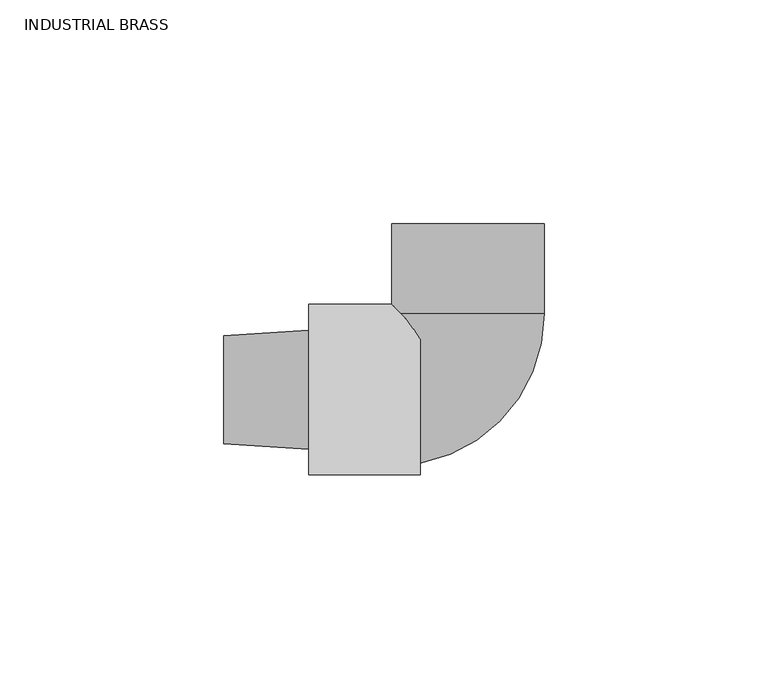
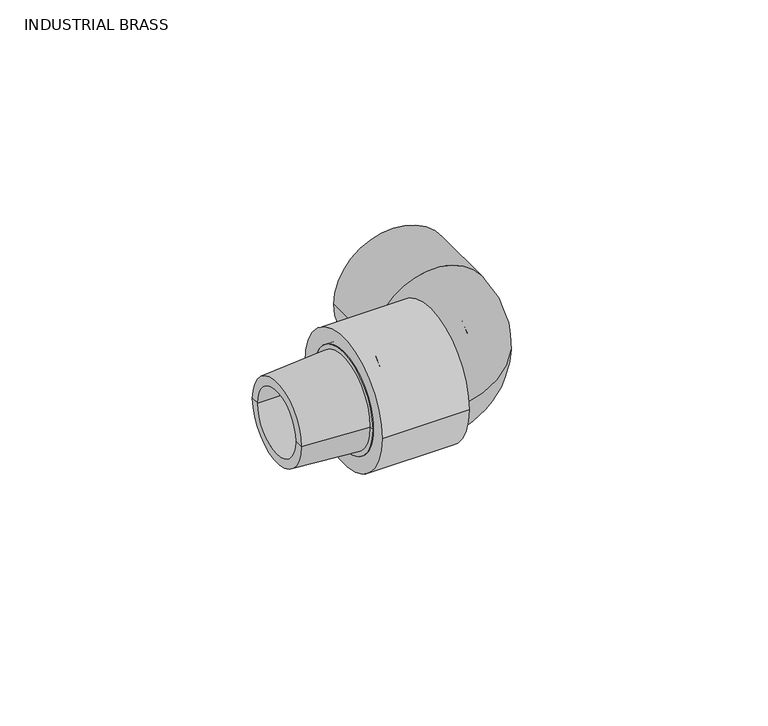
"""IFC4 building model written with IfcOpenShell, lengths in millimetres: valve geometry, Aquatherm - Elbow Transition PPR to M NPT : INDUSTRIAL BRASS."""

from ifc_helpers import new_model, si_unit, point, frame, origin, origin_2d, place, context, project, spatial, polyline, circle_curve, ellipse_curve, trimmed, segment, composite_curve, outline, extrude, source, transform, mapped, element, save
from ifc_brep_helpers import plane_surface, cylinder_surface, revolved_surface, advanced_brep


def industrial_brass_7a433c09(model_context):
    return source(origin(), model_context, "Body", "SolidModel", [
        advanced_brep(
        [(-16.51, -9.525, 0.0), (-16.51, 9.525, 0.0), (-54.61, 9.525, 0.0), (-54.61, -9.525, 0.0), (-16.51, -14.5851563, 0.0), (-16.51, 14.5851562, 0.0), (-35.56, -14.5851563, 0.0), (-35.56, 14.5851562, 0.0), (-54.61, 12.0943357, 0.0), (-54.61, -12.0943357, 0.0), (-35.56, -13.3100212, 0.0), (-35.56, 13.3100212, 0.0)],
        [
            (0, 1, circle_curve(frame((-16.51, 0.0, 0.0), z_axis=(1.0, 0.0, 0.0), x_axis=(0.0, 1.0, 0.0)), 9.525)),
            (1, 2),
            (2, 3, circle_curve(frame((-54.61, 0.0, 0.0), z_axis=(-1.0, 0.0, 0.0), x_axis=(0.0, 1.0, 0.0)), 9.525)),
            (3, 0),
            (1, 0, circle_curve(frame((-16.51, 0.0, 0.0), z_axis=(1.0, 0.0, 0.0), x_axis=(0.0, 1.0, 0.0)), 9.525)),
            (3, 2, circle_curve(frame((-54.61, 0.0, 0.0), z_axis=(-1.0, 0.0, 0.0), x_axis=(0.0, 1.0, 0.0)), 9.525)),
            (4, 5, circle_curve(frame((-16.51, 0.0, 0.0), z_axis=(1.0, 0.0, 0.0), x_axis=(0.0, 1.0, 0.0)), 14.5851563)),
            (5, 1),
            (0, 4),
            (5, 4, circle_curve(frame((-16.51, 0.0, 0.0), z_axis=(1.0, 0.0, 0.0), x_axis=(0.0, 1.0, 0.0)), 14.5851563)),
            (6, 7, circle_curve(frame((-35.56, 0.0, 0.0), z_axis=(1.0, 0.0, 0.0), x_axis=(0.0, 1.0, 0.0)), 14.5851563)),
            (7, 5),
            (4, 6),
            (7, 6, circle_curve(frame((-35.56, 0.0, 0.0), z_axis=(1.0, 0.0, 0.0), x_axis=(0.0, 1.0, 0.0)), 14.5851563)),
            (2, 8),
            (8, 9, circle_curve(frame((-54.61, 0.0, 0.0), z_axis=(-1.0, 0.0, 0.0), x_axis=(0.0, 1.0, 0.0)), 12.0943357)),
            (9, 3),
            (9, 8, circle_curve(frame((-54.61, 0.0, 0.0), z_axis=(-1.0, 0.0, 0.0), x_axis=(0.0, 1.0, 0.0)), 12.0943357)),
            (10, 11, circle_curve(frame((-35.56, 0.0, 0.0), z_axis=(1.0, 0.0, 0.0), x_axis=(0.0, 1.0, 0.0)), 13.3100212)),
            (11, 7),
            (6, 10),
            (11, 10, circle_curve(frame((-35.56, 0.0, 0.0), z_axis=(1.0, 0.0, 0.0), x_axis=(0.0, 1.0, 0.0)), 13.3100212)),
            (8, 11),
            (10, 9),
        ],
        [
            revolved_surface(polyline([(-54.61, 9.525, 0.0), (-16.509999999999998, 9.525, 0.0)]), (-56.4432251, 0.0, 0.0), (-1.0, 0.0, 0.0)),
            plane_surface(frame((-16.51, 0.0, 0.0), z_axis=(1.0, 0.0, 0.0), x_axis=(0.0, 1.0, 0.0))),
            cylinder_surface(frame((-56.4432251, 0.0, 0.0), z_axis=(-1.0, 0.0, 0.0), x_axis=(0.0, 1.0, 0.0)), 14.5851563),
            plane_surface(frame((-54.61, 0.0, 0.0), z_axis=(-1.0, 0.0, 0.0), x_axis=(0.0, 1.0, 0.0))),
            plane_surface(frame((-35.56, 0.0, 0.0), z_axis=(-1.0, 0.0, 0.0), x_axis=(0.0, 1.0, 0.0))),
            revolved_surface(polyline([(-35.56, 13.3100212, 0.0), (-54.61, 12.0943357, 0.0)]), (-56.4432251, 0.0, 0.0), (-1.0, 0.0, 0.0)),
        ],
        [
            (0, [[1, 2, 3, 4]]),
            (0, [[5, -4, 6, -2]]),
            (1, [[7, 8, -1, 9]]),
            (1, [[10, -9, -5, -8]]),
            (2, [[11, 12, -7, 13]]),
            (2, [[14, -13, -10, -12]]),
            (3, [[-3, 15, 16, 17]]),
            (3, [[-6, -17, 18, -15]]),
            (4, [[19, 20, -11, 21]]),
            (4, [[22, -21, -14, -20]]),
            (5, [[-16, 23, -19, 24]]),
            (5, [[-18, -24, -22, -23]]),
        ],
    ),
        advanced_brep(
        [(17.018, 17.018, 0.0), (-17.018, 17.018, 0.0), (6.35, 17.018, 0.0), (-6.35, 17.018, 0.0), (-17.018, -17.018, 0.0), (-17.018, -6.35, 0.0), (-17.018, 6.35, 0.0)],
        [
            (0, 1, circle_curve(frame((0.0, 17.018, 0.0), z_axis=(0.0, 1.0, 0.0), x_axis=(-1.0, 0.0, 0.0)), 17.018)),
            (1, 0, circle_curve(frame((0.0, 17.018, 0.0), z_axis=(0.0, 1.0, 0.0), x_axis=(-1.0, 0.0, 0.0)), 17.018)),
            (2, 3, circle_curve(frame((0.0, 17.018, 0.0), z_axis=(0.0, -1.0, 0.0), x_axis=(-1.0, 0.0, 0.0)), 6.35)),
            (3, 2, circle_curve(frame((0.0, 17.018, 0.0), z_axis=(0.0, -1.0, 0.0), x_axis=(-1.0, 0.0, 0.0)), 6.35)),
            (4, 1, circle_curve(frame((-17.018, 0.0, 0.0), z_axis=(-1.0, 0.0, 0.0), x_axis=(0.0, 1.0, 0.0)), 17.018)),
            (1, 4, circle_curve(frame((-17.018, 0.0, 0.0), z_axis=(-1.0, 0.0, 0.0), x_axis=(0.0, 1.0, 0.0)), 17.018)),
            (5, 6, circle_curve(frame((-17.018, 0.0, 0.0), z_axis=(1.0, 0.0, 0.0), x_axis=(0.0, 1.0, 0.0)), 6.35)),
            (6, 5, circle_curve(frame((-17.018, 0.0, 0.0), z_axis=(1.0, 0.0, 0.0), x_axis=(0.0, 1.0, 0.0)), 6.35)),
            (0, 4, circle_curve(frame((-17.018, 17.018, 0.0), z_axis=(0.0, 0.0, -1.0), x_axis=(1.0, 0.0, 0.0)), 34.036)),
            (6, 3, circle_curve(frame((-17.018, 17.018, 0.0), z_axis=(0.0, 0.0, 1.0), x_axis=(1.0, 0.0, 0.0)), 10.668)),
            (2, 5, circle_curve(frame((-17.018, 17.018, 0.0), z_axis=(0.0, 0.0, -1.0), x_axis=(1.0, 0.0, 0.0)), 23.368)),
        ],
        [
            plane_surface(frame((-17.018, 17.018, 41.9103543), z_axis=(0.0, 1.0, 0.0), x_axis=(1.0, 0.0, 0.0))),
            plane_surface(frame((-17.018, 17.018, 41.9103543), z_axis=(-1.0, 0.0, 0.0), x_axis=(0.0, -1.0, 0.0))),
            revolved_surface(trimmed(ellipse_curve(frame((0.0, 17.018, 0.0), z_axis=(0.0, 1.0, 0.0), x_axis=(-1.0, 0.0, 0.0)), 17.018, 17.018), [point((17.018, 17.018, 0.0))], [point((-17.018, 17.018, 0.0))], True, "CARTESIAN"), (-17.018, 17.018, 41.9103543), (0.0, 0.0, -1.0)),
            revolved_surface(trimmed(ellipse_curve(frame((0.0, 17.018, 0.0), z_axis=(0.0, 1.0, 0.0), x_axis=(-1.0, 0.0, 0.0)), 17.018, 17.018), [point((-17.018, 17.018, 0.0))], [point((17.018, 17.018, 0.0))], True, "CARTESIAN"), (-17.018, 17.018, 41.9103543), (0.0, 0.0, -1.0)),
            revolved_surface(trimmed(ellipse_curve(frame((0.0, 17.018, 0.0), z_axis=(0.0, -1.0, 0.0), x_axis=(-1.0, 0.0, 0.0)), 6.35, 6.35), [point((6.35, 17.018, 0.0))], [point((-6.35, 17.018, 0.0))], True, "CARTESIAN"), (-17.018, 17.018, 41.9103543), (0.0, 0.0, -1.0)),
            revolved_surface(trimmed(ellipse_curve(frame((0.0, 17.018, 0.0), z_axis=(0.0, -1.0, 0.0), x_axis=(-1.0, 0.0, 0.0)), 6.35, 6.35), [point((-6.35, 17.018, 0.0))], [point((6.35, 17.018, 0.0))], True, "CARTESIAN"), (-17.018, 17.018, 41.9103543), (0.0, 0.0, -1.0)),
        ],
        [
            (0, [[1, 2], [3, 4]]),
            (1, [[5, 6], [7, 8]]),
            (2, [[-1, 9, -6]]),
            (3, [[-9, -2, -5]]),
            (4, [[10, -3, 11, -8]]),
            (5, [[-11, -4, -10, -7]]),
        ],
    ),
        extrude(outline(composite_curve([segment(trimmed(circle_curve(origin_2d(), 17.018), [point((0.0, 17.018))], [point((0.0, -17.018))], False, "CARTESIAN"), True, "CONTINUOUS"), segment(trimmed(circle_curve(origin_2d(), 17.018), [point((0.0, -17.018))], [point((0.0, 17.018))], False, "CARTESIAN"), True, "CONTINUOUS")], self_intersect=False), holes=[composite_curve([segment(trimmed(circle_curve(origin_2d(), 10.033), [point((0.0, 10.033))], [point((0.0, -10.033))], True, "CARTESIAN"), True, "CONTINUOUS"), segment(trimmed(circle_curve(origin_2d(), 10.033), [point((0.0, -10.033))], [point((0.0, 10.033))], True, "CARTESIAN"), True, "CONTINUOUS")], self_intersect=False)]), frame((0.0, 17.018, 0.0), z_axis=(0.0, 1.0, 0.0), x_axis=(0.0, 0.0, 1.0)), (0.0, 0.0, 1.0), 20.066),
        extrude(outline(composite_curve([segment(trimmed(circle_curve(origin_2d(), 19.05), [point((-19.05, 0.0))], [point((19.05, 0.0))], False, "CARTESIAN"), True, "CONTINUOUS"), segment(trimmed(circle_curve(origin_2d(), 19.05), [point((19.05, 0.0))], [point((-19.05, 0.0))], False, "CARTESIAN"), True, "CONTINUOUS")], self_intersect=False), holes=[composite_curve([segment(trimmed(circle_curve(origin_2d(), 14.605), [point((-14.605, 0.0))], [point((14.605, 0.0))], True, "CARTESIAN"), True, "CONTINUOUS"), segment(trimmed(circle_curve(origin_2d(), 14.605), [point((14.605, 0.0))], [point((-14.605, 0.0))], True, "CARTESIAN"), True, "CONTINUOUS")], self_intersect=False)]), frame((-35.56, 0.0, 0.0), z_axis=(1.0, 0.0, 0.0), x_axis=(0.0, 1.0, 0.0)), (0.0, 0.0, 1.0), 24.892),
    ])


if __name__ == "__main__":
    model = new_model("IFC4")
    model_context = context("Model", 3, world=origin())
    ifc_project = project(units=[si_unit("LENGTHUNIT", "METRE", prefix="MILLI")], contexts=[model_context])
    site = spatial("IfcSite", under=ifc_project)
    building = spatial("IfcBuilding", under=site)
    placement = place(None, origin())
    industrial_brass_shape = industrial_brass_7a433c09(model_context)
    element("IfcValve", 1, ObjectType="Aquatherm - Elbow Transition PPR to M NPT : INDUSTRIAL BRASS", at=placement, inside=building, context=model_context, shape_type="MappedRepresentation", body=[
        mapped(industrial_brass_shape, transform((0.0, 0.0, 0.0), x_axis=(1.0, 0.0, 0.0), y_axis=(0.0, 1.0, 0.0), z_axis=(0.0, 0.0, 1.0))),
    ])
    save(model, "model.ifc")
